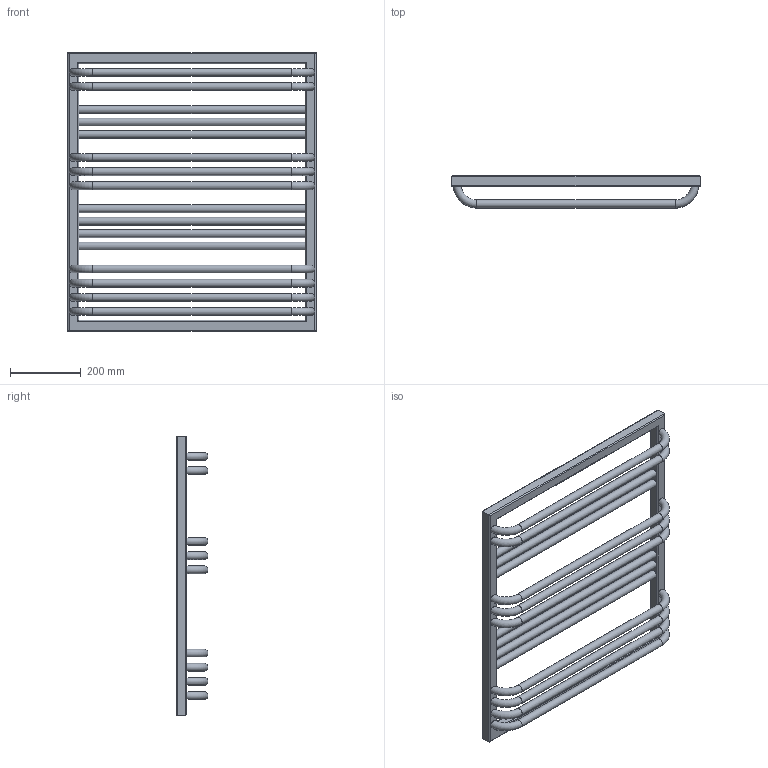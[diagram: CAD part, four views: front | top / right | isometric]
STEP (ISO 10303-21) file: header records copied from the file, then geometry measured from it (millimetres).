
FILE_DESCRIPTION((''),'2;1');
FILE_NAME('Z:\R\G\P\RGPH18 - Grzejnik POC\Work\Inventor\POC 1-6-8 v2.0\Marketing\AutoCad 3D\POC-785-700-1-6-8.stp','2012-07-12T14:39:44',('KurKa'),(''),'Autodesk Inventor 2012','Autodesk Inventor 2012','');
FILE_SCHEMA(('AUTOMOTIVE_DESIGN { 1 0 10303 214 1 1 1 1 }'));
Length unit declared in the file: millimetre
Products named in the file (1): POC-785-700-1-6-8
Bounding box: 700 x 90 x 785 mm (x, y, z)
Volume: 6707313.7 mm3; surface area: 1075166.9 mm2
Topology: 1 solids, 1 shells, 69 faces, 173 edges, 109 vertices
Faces by surface type: cylinder 35, torus 21, plane 13
Full cylindrical faces by diameter (mm): 18.631 x3, 22 x16
Entity records: 2918 total; most frequent: CARTESIAN_POINT 1446, DIRECTION 294, ORIENTED_EDGE 230, EDGE_LOOP 146, AXIS2_PLACEMENT_3D 127, EDGE_CURVE 115, VERTEX_POINT 91, FACE_BOUND 77
